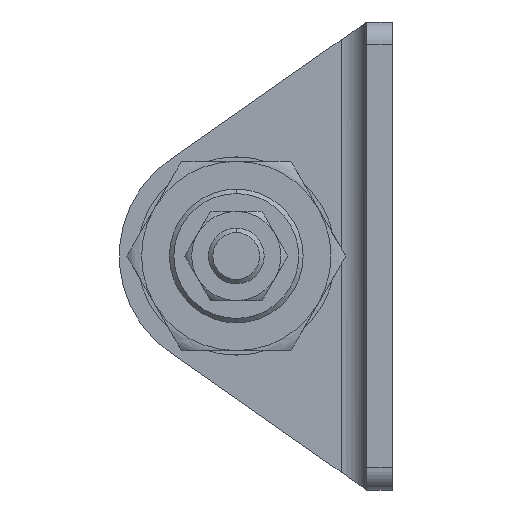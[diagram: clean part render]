
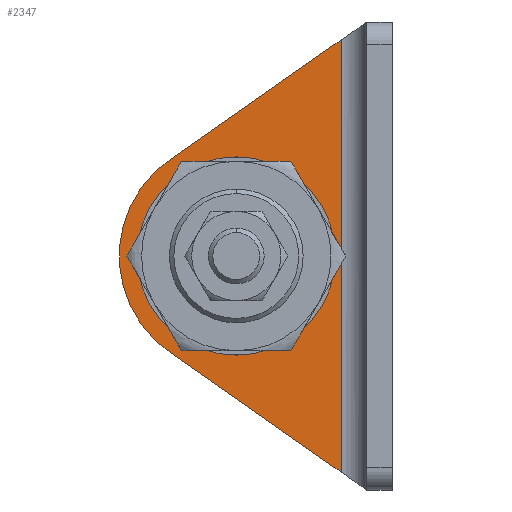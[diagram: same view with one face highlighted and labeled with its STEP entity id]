
A CAD part, left-side view. The second image highlights one B-rep face of the part: STEP entity #2347.
In plain terms, the highlighted planar face has unit normal (-1, 0, 0).
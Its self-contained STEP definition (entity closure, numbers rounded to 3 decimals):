
#88 = CARTESIAN_POINT ( 'NONE',  ( -2.3, 4.6, 19.391 ) ) ;
#197 = CARTESIAN_POINT ( 'NONE',  ( -2.3, 5.1, 0. ) ) ;
#270 = CIRCLE ( 'NONE', #3690, 8.9 ) ;
#305 = DIRECTION ( 'NONE',  ( -1., 0., 0. ) ) ;
#420 = DIRECTION ( 'NONE',  ( 0., 0., -1. ) ) ;
#456 = DIRECTION ( 'NONE',  ( 0., -1., 0. ) ) ;
#469 = CIRCLE ( 'NONE', #3372, 10.5 ) ;
#499 = CIRCLE ( 'NONE', #2919, 8.9 ) ;
#500 = VERTEX_POINT ( 'NONE', #197 ) ;
#519 = DIRECTION ( 'NONE',  ( 0., -1., 0. ) ) ;
#802 = DIRECTION ( 'NONE',  ( -1., 0., 0. ) ) ;
#1067 = VERTEX_POINT ( 'NONE', #2006 ) ;
#1141 = DIRECTION ( 'NONE',  ( 0., -1., 0. ) ) ;
#1180 = FACE_BOUND ( 'NONE', #1300, .T. ) ;
#1195 = VECTOR ( 'NONE', #3030, 1000. ) ;
#1198 = EDGE_CURVE ( 'NONE', #3744, #1721, #3728, .T. ) ;
#1244 = CARTESIAN_POINT ( 'NONE',  ( -2.3, 4.6, -19.391 ) ) ;
#1300 = EDGE_LOOP ( 'NONE', ( #3043, #1882 ) ) ;
#1506 = CARTESIAN_POINT ( 'NONE',  ( -2.3, 4.6, 21. ) ) ;
#1617 = PLANE ( 'NONE',  #3736 ) ;
#1678 = DIRECTION ( 'NONE',  ( -1., 0., 0. ) ) ;
#1721 = VERTEX_POINT ( 'NONE', #1244 ) ;
#1820 = DIRECTION ( 'NONE',  ( 0., -1., 0. ) ) ;
#1834 = CARTESIAN_POINT ( 'NONE',  ( -2.3, 2.3, 21. ) ) ;
#1882 = ORIENTED_EDGE ( 'NONE', *, *, #2493, .F. ) ;
#1970 = ORIENTED_EDGE ( 'NONE', *, *, #3090, .F. ) ;
#2006 = CARTESIAN_POINT ( 'NONE',  ( -2.3, 22.9, 0. ) ) ;
#2347 = ADVANCED_FACE ( 'NONE', ( #1180, #3285 ), #1617, .T. ) ;
#2493 = EDGE_CURVE ( 'NONE', #1067, #500, #270, .T. ) ;
#2545 = CARTESIAN_POINT ( 'NONE',  ( -2.3, 2.3, 21. ) ) ;
#2567 = CARTESIAN_POINT ( 'NONE',  ( -2.3, 20.019, 8.604 ) ) ;
#2577 = DIRECTION ( 'NONE',  ( 0., -0.819, -0.573 ) ) ;
#2659 = CARTESIAN_POINT ( 'NONE',  ( -2.3, 14., 0. ) ) ;
#2716 = EDGE_CURVE ( 'NONE', #3623, #3744, #469, .T. ) ;
#2861 = EDGE_CURVE ( 'NONE', #500, #1067, #499, .T. ) ;
#2919 = AXIS2_PLACEMENT_3D ( 'NONE', #3243, #305, #1141 ) ;
#2925 = VECTOR ( 'NONE', #420, 1000. ) ;
#2969 = ORIENTED_EDGE ( 'NONE', *, *, #3151, .T. ) ;
#3025 = CARTESIAN_POINT ( 'NONE',  ( -2.3, 20.019, -8.604 ) ) ;
#3030 = DIRECTION ( 'NONE',  ( 0., 0.819, -0.573 ) ) ;
#3043 = ORIENTED_EDGE ( 'NONE', *, *, #2861, .F. ) ;
#3090 = EDGE_CURVE ( 'NONE', #3278, #1721, #3668, .T. ) ;
#3151 = EDGE_CURVE ( 'NONE', #3278, #3623, #3240, .T. ) ;
#3240 = LINE ( 'NONE', #1834, #1195 ) ;
#3243 = CARTESIAN_POINT ( 'NONE',  ( -2.3, 14., 0. ) ) ;
#3256 = ORIENTED_EDGE ( 'NONE', *, *, #2716, .T. ) ;
#3278 = VERTEX_POINT ( 'NONE', #88 ) ;
#3285 = FACE_OUTER_BOUND ( 'NONE', #3849, .T. ) ;
#3291 = ORIENTED_EDGE ( 'NONE', *, *, #1198, .T. ) ;
#3307 = CARTESIAN_POINT ( 'NONE',  ( -2.3, 22.028, -7.198 ) ) ;
#3372 = AXIS2_PLACEMENT_3D ( 'NONE', #2659, #3509, #519 ) ;
#3448 = CARTESIAN_POINT ( 'NONE',  ( -2.3, 14., 0. ) ) ;
#3509 = DIRECTION ( 'NONE',  ( -1., 0., 0. ) ) ;
#3521 = VECTOR ( 'NONE', #2577, 1000. ) ;
#3623 = VERTEX_POINT ( 'NONE', #2567 ) ;
#3668 = LINE ( 'NONE', #1506, #2925 ) ;
#3690 = AXIS2_PLACEMENT_3D ( 'NONE', #3448, #1678, #456 ) ;
#3728 = LINE ( 'NONE', #3307, #3521 ) ;
#3736 = AXIS2_PLACEMENT_3D ( 'NONE', #2545, #802, #1820 ) ;
#3744 = VERTEX_POINT ( 'NONE', #3025 ) ;
#3849 = EDGE_LOOP ( 'NONE', ( #2969, #3256, #3291, #1970 ) ) ;
